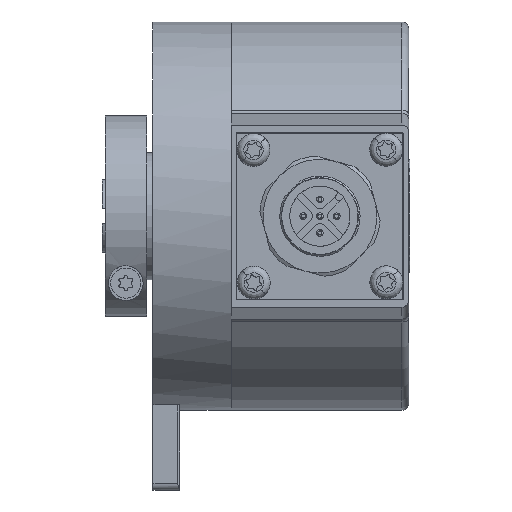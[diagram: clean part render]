
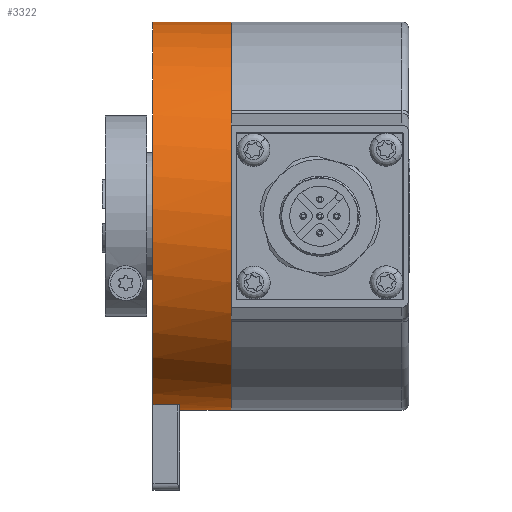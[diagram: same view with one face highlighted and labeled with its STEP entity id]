
A CAD part, front view. The second image highlights one B-rep face of the part: STEP entity #3322.
In plain terms, the highlighted cylindrical face has radius 29 mm (diameter 58 mm), a partial arc.
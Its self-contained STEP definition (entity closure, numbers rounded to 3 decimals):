
#353 = DIRECTION ( 'NONE',  ( 1., 0., 0. ) ) ;
#479 = EDGE_CURVE ( 'NONE', #3444, #12937, #2042, .T. ) ;
#506 = DIRECTION ( 'NONE',  ( 0., 0., -1. ) ) ;
#1548 = DIRECTION ( 'NONE',  ( 0., 0., -1. ) ) ;
#1753 = CARTESIAN_POINT ( 'NONE',  ( 8.068, 25.423, 29. ) ) ;
#2042 = CIRCLE ( 'NONE', #12662, 29. ) ;
#2117 = VERTEX_POINT ( 'NONE', #2881 ) ;
#2151 = EDGE_CURVE ( 'NONE', #6741, #11132, #15312, .T. ) ;
#2881 = CARTESIAN_POINT ( 'NONE',  ( 8.068, 25.423, -29. ) ) ;
#3322 = ADVANCED_FACE ( 'NONE', ( #8295 ), #4238, .T. ) ;
#3444 = VERTEX_POINT ( 'NONE', #15915 ) ;
#3469 = CARTESIAN_POINT ( 'NONE',  ( -3.622, 25.423, 29. ) ) ;
#3592 = CARTESIAN_POINT ( 'NONE',  ( 8.068, 25.423, -29. ) ) ;
#3616 = ORIENTED_EDGE ( 'NONE', *, *, #11378, .F. ) ;
#4238 = CYLINDRICAL_SURFACE ( 'NONE', #6444, 29. ) ;
#4340 = CIRCLE ( 'NONE', #9268, 29. ) ;
#4798 = DIRECTION ( 'NONE',  ( 1., 0., 0. ) ) ;
#5025 = EDGE_CURVE ( 'NONE', #11132, #2117, #6336, .T. ) ;
#5779 = DIRECTION ( 'NONE',  ( 1., 0., 0. ) ) ;
#6204 = VECTOR ( 'NONE', #353, 1000. ) ;
#6336 = CIRCLE ( 'NONE', #12543, 29. ) ;
#6444 = AXIS2_PLACEMENT_3D ( 'NONE', #7971, #5779, #14144 ) ;
#6741 = VERTEX_POINT ( 'NONE', #3469 ) ;
#6921 = LINE ( 'NONE', #7986, #11644 ) ;
#6926 = CARTESIAN_POINT ( 'NONE',  ( 0.378, 25.423, -29. ) ) ;
#7686 = CARTESIAN_POINT ( 'NONE',  ( -3.622, 25.423, 0. ) ) ;
#7960 = DIRECTION ( 'NONE',  ( 1., 0., 0. ) ) ;
#7971 = CARTESIAN_POINT ( 'NONE',  ( 8.068, 25.423, 0. ) ) ;
#7986 = CARTESIAN_POINT ( 'NONE',  ( 8.068, 18.423, -28.142 ) ) ;
#8295 = FACE_OUTER_BOUND ( 'NONE', #10766, .T. ) ;
#9034 = VECTOR ( 'NONE', #4798, 1000. ) ;
#9268 = AXIS2_PLACEMENT_3D ( 'NONE', #7686, #12665, #1548 ) ;
#9517 = ORIENTED_EDGE ( 'NONE', *, *, #5025, .F. ) ;
#9778 = CARTESIAN_POINT ( 'NONE',  ( -3.622, 18.423, -28.142 ) ) ;
#10161 = EDGE_CURVE ( 'NONE', #6741, #15139, #4340, .T. ) ;
#10316 = CARTESIAN_POINT ( 'NONE',  ( 8.068, 25.423, 0. ) ) ;
#10766 = EDGE_LOOP ( 'NONE', ( #11887, #13880, #3616, #10790, #14695, #9517 ) ) ;
#10790 = ORIENTED_EDGE ( 'NONE', *, *, #479, .T. ) ;
#11132 = VERTEX_POINT ( 'NONE', #11943 ) ;
#11378 = EDGE_CURVE ( 'NONE', #3444, #15139, #6921, .T. ) ;
#11587 = EDGE_CURVE ( 'NONE', #12937, #2117, #15934, .T. ) ;
#11644 = VECTOR ( 'NONE', #14080, 1000. ) ;
#11887 = ORIENTED_EDGE ( 'NONE', *, *, #2151, .F. ) ;
#11943 = CARTESIAN_POINT ( 'NONE',  ( 8.068, 25.423, 29. ) ) ;
#12543 = AXIS2_PLACEMENT_3D ( 'NONE', #10316, #7960, #506 ) ;
#12662 = AXIS2_PLACEMENT_3D ( 'NONE', #13371, #14751, #13608 ) ;
#12665 = DIRECTION ( 'NONE',  ( 1., 0., 0. ) ) ;
#12937 = VERTEX_POINT ( 'NONE', #6926 ) ;
#13371 = CARTESIAN_POINT ( 'NONE',  ( 0.378, 25.423, 0. ) ) ;
#13608 = DIRECTION ( 'NONE',  ( 0., 0., 1. ) ) ;
#13880 = ORIENTED_EDGE ( 'NONE', *, *, #10161, .T. ) ;
#14080 = DIRECTION ( 'NONE',  ( -1., 0., 0. ) ) ;
#14144 = DIRECTION ( 'NONE',  ( 0., 0., -1. ) ) ;
#14695 = ORIENTED_EDGE ( 'NONE', *, *, #11587, .T. ) ;
#14751 = DIRECTION ( 'NONE',  ( 1., 0., 0. ) ) ;
#15139 = VERTEX_POINT ( 'NONE', #9778 ) ;
#15312 = LINE ( 'NONE', #1753, #6204 ) ;
#15915 = CARTESIAN_POINT ( 'NONE',  ( 0.378, 18.423, -28.142 ) ) ;
#15934 = LINE ( 'NONE', #3592, #9034 ) ;
